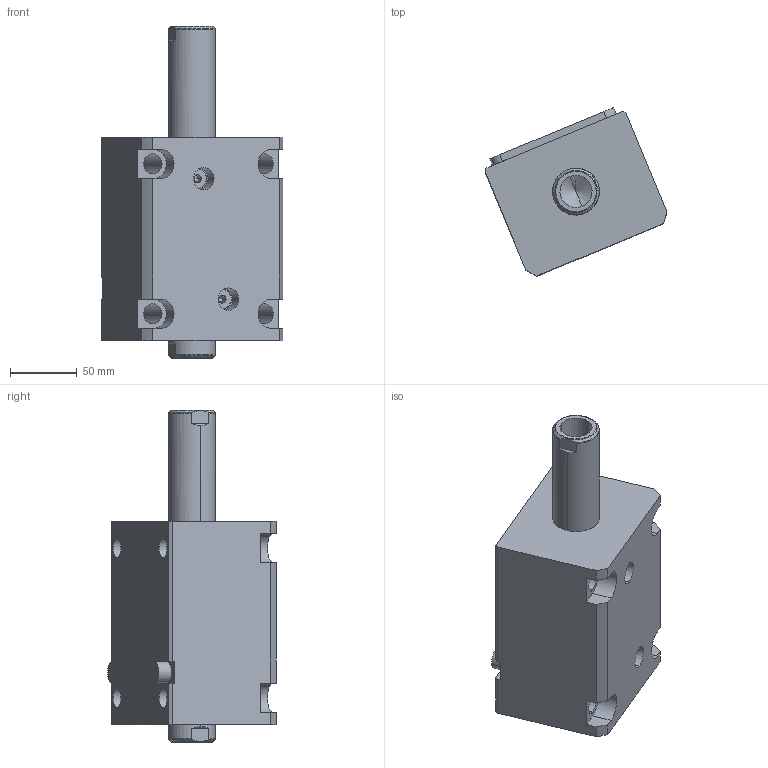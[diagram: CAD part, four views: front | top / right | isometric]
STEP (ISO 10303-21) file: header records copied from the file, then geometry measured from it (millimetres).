
FILE_DESCRIPTION (( 'STEP AP214' ), '1' );
FILE_NAME ('chtb-lw63x70n_asm.STEP', '2018-05-03T07:57:46', ( 'Windows' ), ( 'Microsoft' ), 'SwSTEP 2.0', 'SolidWorks 2015', '' );
FILE_SCHEMA (( 'AUTOMOTIVE_DESIGN' ));
Length unit declared in the file: millimetre
Products named in the file (5): CHTB-SW63X70NHSG; CHTB-LW63X70NBT; CHTB-LA63PJ; CHTB-63QG; chtb-lw63x70n_asm
Assembly tree (4 placements, depth 2):
  chtb-lw63x70n_asm
    CHTB-63QG
    CHTB-LA63PJ
    CHTB-LW63X70NBT
    CHTB-SW63X70NHSG
Bounding box: 135.77 x 126.06 x 248 mm (x, y, z)
Volume: 1381541.7 mm3; surface area: 187664.4 mm2
Topology: 4 solids, 4 shells, 194 faces, 563 edges, 381 vertices
Faces by surface type: cylinder 104, plane 50, cone 16, bspline 12, torus 12
Entity records: 18887 total; most frequent: CARTESIAN_POINT 13868, ORIENTED_EDGE 1110, DIRECTION 876, EDGE_CURVE 555, VERTEX_POINT 381, AXIS2_PLACEMENT_3D 336, EDGE_LOOP 222, VECTOR 204
